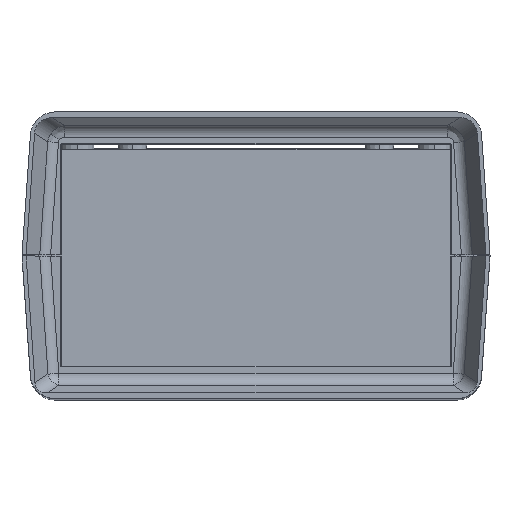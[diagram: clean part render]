
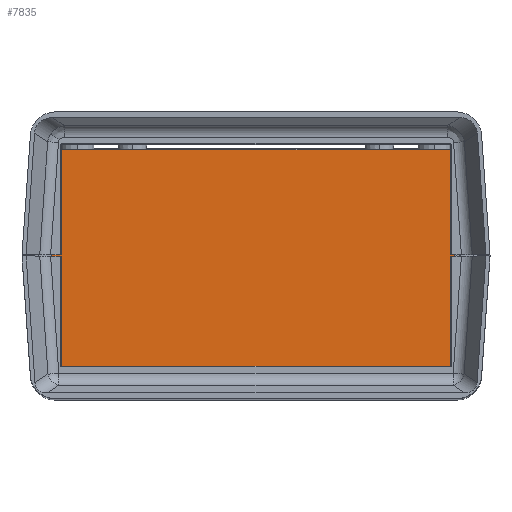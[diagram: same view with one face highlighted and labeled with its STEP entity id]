
A CAD part, top view. The second image highlights one B-rep face of the part: STEP entity #7835.
In plain terms, the highlighted planar face has unit normal (0, 0, 1).
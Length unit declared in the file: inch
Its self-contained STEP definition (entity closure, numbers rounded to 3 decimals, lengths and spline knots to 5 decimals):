
#682 = EDGE_CURVE ( 'NONE', #22246, #22010, #7634, .T. ) ;
#1084 = EDGE_CURVE ( 'NONE', #22010, #3237, #2680, .T. ) ;
#1320 = AXIS2_PLACEMENT_3D ( 'NONE', #16786, #4267, #16856 ) ;
#1757 = CARTESIAN_POINT ( 'NONE',  ( -1.6055, 0.9, 0.05 ) ) ;
#2406 = PLANE ( 'NONE',  #1320 ) ;
#2680 = LINE ( 'NONE', #13971, #7030 ) ;
#3237 = VERTEX_POINT ( 'NONE', #18107 ) ;
#4225 = DIRECTION ( 'NONE',  ( 1., 0., 0. ) ) ;
#4267 = DIRECTION ( 'NONE',  ( 0., 0., 1. ) ) ;
#5796 = VERTEX_POINT ( 'NONE', #13980 ) ;
#5947 = ORIENTED_EDGE ( 'NONE', *, *, #16685, .T. ) ;
#7030 = VECTOR ( 'NONE', #20880, 39.37008 ) ;
#7634 = LINE ( 'NONE', #11098, #11393 ) ;
#7835 = ADVANCED_FACE ( 'NONE', ( #12551 ), #2406, .T. ) ;
#8638 = CARTESIAN_POINT ( 'NONE',  ( 1.6055, -0.9, 0.05 ) ) ;
#9249 = LINE ( 'NONE', #1757, #22173 ) ;
#10588 = LINE ( 'NONE', #13314, #14699 ) ;
#11098 = CARTESIAN_POINT ( 'NONE',  ( 1.6055, 0.9, 0.05 ) ) ;
#11393 = VECTOR ( 'NONE', #17877, 39.37008 ) ;
#12009 = EDGE_CURVE ( 'NONE', #3237, #5796, #9249, .T. ) ;
#12551 = FACE_OUTER_BOUND ( 'NONE', #15791, .T. ) ;
#13307 = CARTESIAN_POINT ( 'NONE',  ( 1.6055, 0.9, 0.05 ) ) ;
#13314 = CARTESIAN_POINT ( 'NONE',  ( -1.6055, -0.9, 0.05 ) ) ;
#13475 = ORIENTED_EDGE ( 'NONE', *, *, #12009, .T. ) ;
#13971 = CARTESIAN_POINT ( 'NONE',  ( -1.6055, 0.9, 0.05 ) ) ;
#13980 = CARTESIAN_POINT ( 'NONE',  ( -1.6055, -0.9, 0.05 ) ) ;
#14699 = VECTOR ( 'NONE', #4225, 39.37008 ) ;
#15791 = EDGE_LOOP ( 'NONE', ( #16524, #23048, #13475, #5947 ) ) ;
#16524 = ORIENTED_EDGE ( 'NONE', *, *, #682, .T. ) ;
#16685 = EDGE_CURVE ( 'NONE', #5796, #22246, #10588, .T. ) ;
#16786 = CARTESIAN_POINT ( 'NONE',  ( 0., 0., 0.05 ) ) ;
#16856 = DIRECTION ( 'NONE',  ( 1., 0., 0. ) ) ;
#17877 = DIRECTION ( 'NONE',  ( 0., 1., 0. ) ) ;
#18107 = CARTESIAN_POINT ( 'NONE',  ( -1.6055, 0.9, 0.05 ) ) ;
#19721 = DIRECTION ( 'NONE',  ( 0., -1., 0. ) ) ;
#20880 = DIRECTION ( 'NONE',  ( -1., 0., 0. ) ) ;
#22010 = VERTEX_POINT ( 'NONE', #13307 ) ;
#22173 = VECTOR ( 'NONE', #19721, 39.37008 ) ;
#22246 = VERTEX_POINT ( 'NONE', #8638 ) ;
#23048 = ORIENTED_EDGE ( 'NONE', *, *, #1084, .T. ) ;
